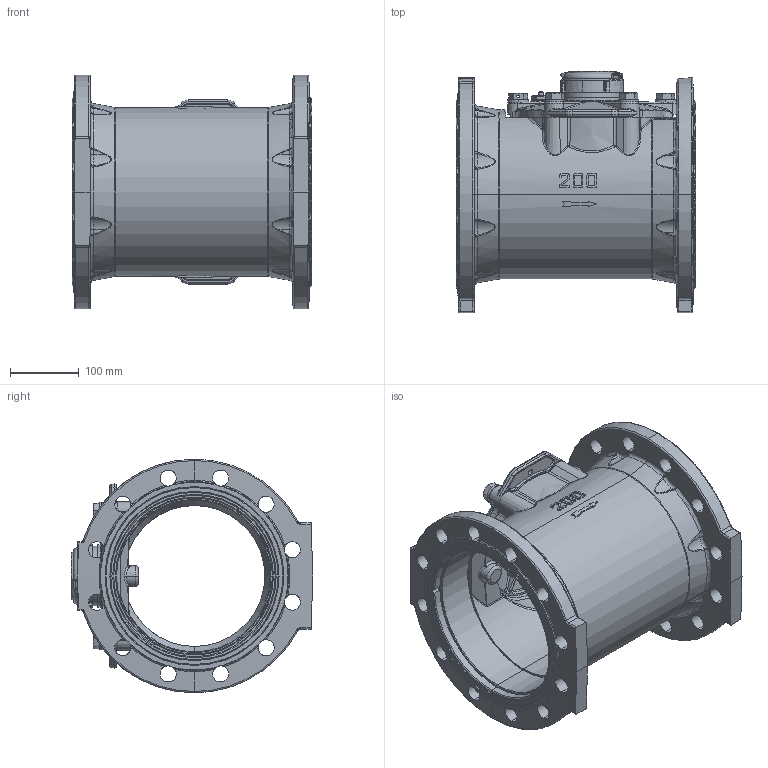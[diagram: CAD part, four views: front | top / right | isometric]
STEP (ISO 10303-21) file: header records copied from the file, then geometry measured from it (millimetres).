
FILE_DESCRIPTION (( 'STEP AP203' ), '1' );
FILE_NAME ('13361009-00,WT 8 ISO m3.STEP', '2011-05-16T06:38:28', ( 'àøã-ãìéä áò"î' ), ( '' ), 'SwSTEP 2.0', 'SolidWorks 2011', '' );
FILE_SCHEMA (( 'CONFIG_CONTROL_DESIGN' ));
Length unit declared in the file: millimetre
Products named in the file (11): 13361009-00,WT 8 ISO m3; Hex cap screws MxL DIN 933(M16x2x45(21081909 -00) ); FLAT WASHERS DIN 125 A (ISO 7089)(M16 (2 30 213 09 ))-1; 25222309-06,25275209-06,Cover WT 6''''-8''''(2 52 223 09 -06); 21082009-21,Regulator cap screw WT-5; 21081910-00,Hex cap screw M16x2x45 DIN 933 drilled; 32269055-20,Body WT 8'''' (MACHINING)(3 22 692 09 -19); a,25820329-04,Register cover 19 with plastic lid ARAD-4; p,26710709-07,Lid pin-3; p,27630309-05,Plastic lid ARAD(hor)-1-4; 25820309-18,Register cover 19-1-4
Assembly tree (17 placements, depth 3):
  13361009-00,WT 8 ISO m3
    a,25820329-04,Register cover 19 with plastic lid ARAD-4
      25820309-18,Register cover 19-1-4
      p,26710709-07,Lid pin-3
      p,27630309-05,Plastic lid ARAD(hor)-1-4
    FLAT WASHERS DIN 125 A (ISO 7089)(M16 (2 30 213 09 ))-1  x5
    Hex cap screws MxL DIN 933(M16x2x45(21081909 -00) )  x4
    32269055-20,Body WT 8'''' (MACHINING)(3 22 692 09 -19)
    25222309-06,25275209-06,Cover WT 6''''-8''''(2 52 223 09 -06)
    21082009-21,Regulator cap screw WT-5
    21081910-00,Hex cap screw M16x2x45 DIN 933 drilled
Bounding box: 349 x 351.1 x 340 mm (x, y, z)
Volume: 5591109.6 mm3; surface area: 933547.5 mm2
Topology: 16 solids, 16 shells, 2117 faces, 5275 edges, 3130 vertices
Faces by surface type: plane 601, bspline 536, cylinder 474, cone 301, torus 193, sphere 12
Entity records: 87745 total; most frequent: CARTESIAN_POINT 43709, ORIENTED_EDGE 9920, DIRECTION 7690, EDGE_CURVE 4960, AXIS2_PLACEMENT_3D 3145, VERTEX_POINT 2999, EDGE_LOOP 2145, FACE_OUTER_BOUND 2012
